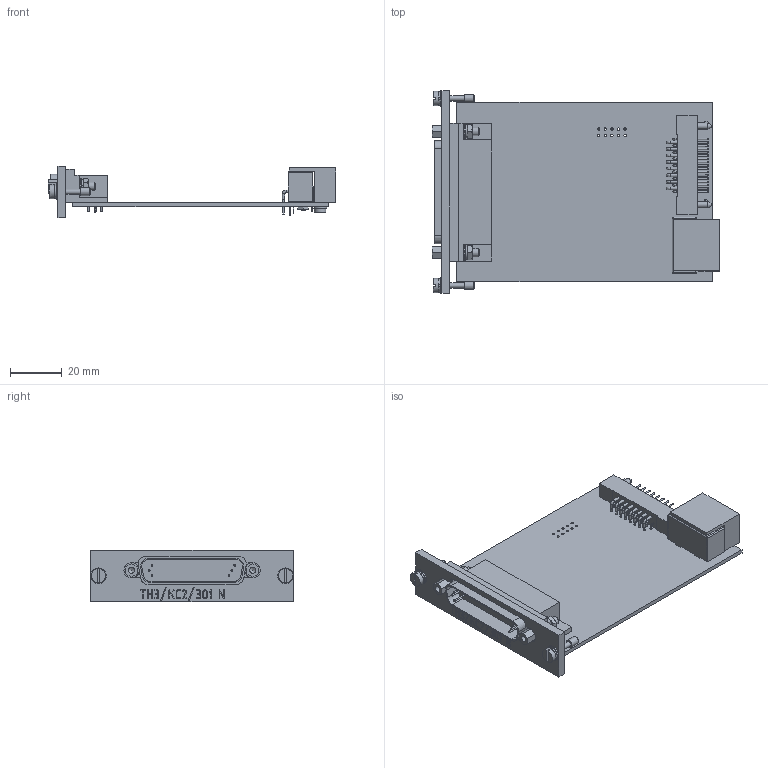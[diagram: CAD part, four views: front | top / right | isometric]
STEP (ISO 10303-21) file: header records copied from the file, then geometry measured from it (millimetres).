
FILE_DESCRIPTION(('STEP AP203'), '1');
FILE_NAME('帎迗.468153.010 沓劌錪 眝3_庍2_301', '', ('UNSPECIFIED'), ('UNSPECIFIED'), 'C3D Converter', 'C3D Toolkit', '');
FILE_SCHEMA(('CONFIG_CONTROL_DESIGN'));
Length unit declared in the file: millimetre
Products named in the file (1): КМНТ.468153.010
Bounding box: 111.29 x 78.5 x 19.8 mm (x, y, z)
Volume: 30162 mm3; surface area: 27084.3 mm2
Topology: 1 solids, 1 shells, 1270 faces, 3534 edges, 2313 vertices
Faces by surface type: cylinder 642, plane 539, cone 36, sphere 36, torus 17
Full cylindrical faces by diameter (mm): 0.6 x43, 0.7 x12, 0.8 x17, 0.9 x10, 1 x61, 1.1 x7, 1.4 x2, 1.6 x2, 2 x2, 2.362 x2, 2.459 x2, 2.49 x2, 3 x2, 3.175 x4, 3.2 x4, 3.4 x2, 4.5 x2, 5 x2, 5.5 x2, 6 x4
Entity records: 52568 total; most frequent: CARTESIAN_POINT 9444, DIRECTION 7125, ORIENTED_EDGE 6502, EDGE_CURVE 3251, AXIS2_PLACEMENT_3D 2700, VERTEX_POINT 2298, EDGE_LOOP 1773, LINE 1725
